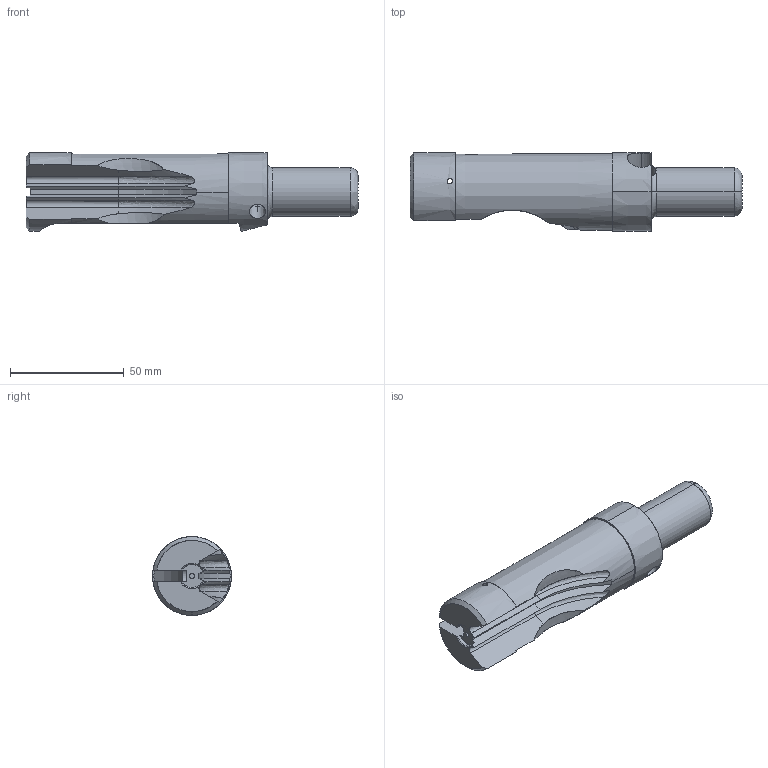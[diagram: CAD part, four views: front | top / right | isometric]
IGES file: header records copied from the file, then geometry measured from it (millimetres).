
Start section: SolidWorks IGES file using analytic representation for surfaces
Global section: file name: M:\solidworks files\firearms cad files\files to send to FUbob @cncguns\Sten Bolt.IGS; native system: SolidWorks 2008; preprocessor: SolidWorks 2008; author: owner; date: 100404.225608; units: inch
Bounding box: 146 x 34.67 x 34.67 mm (x, y, z)
Surface area: 21595.4 mm2 (no closed solid volume)
Topology: 0 solids, 0 shells, 446 faces, 6172 edges, 6170 vertices
Faces by surface type: bspline 392, revolution 54
